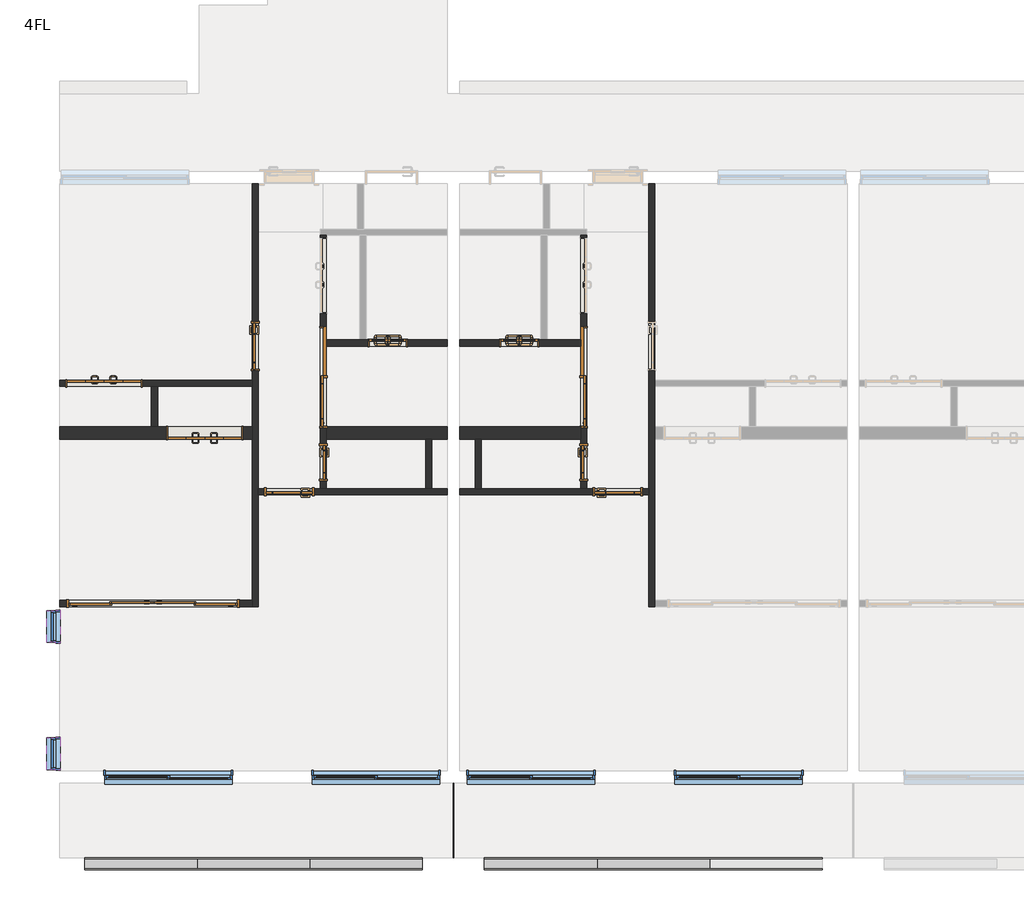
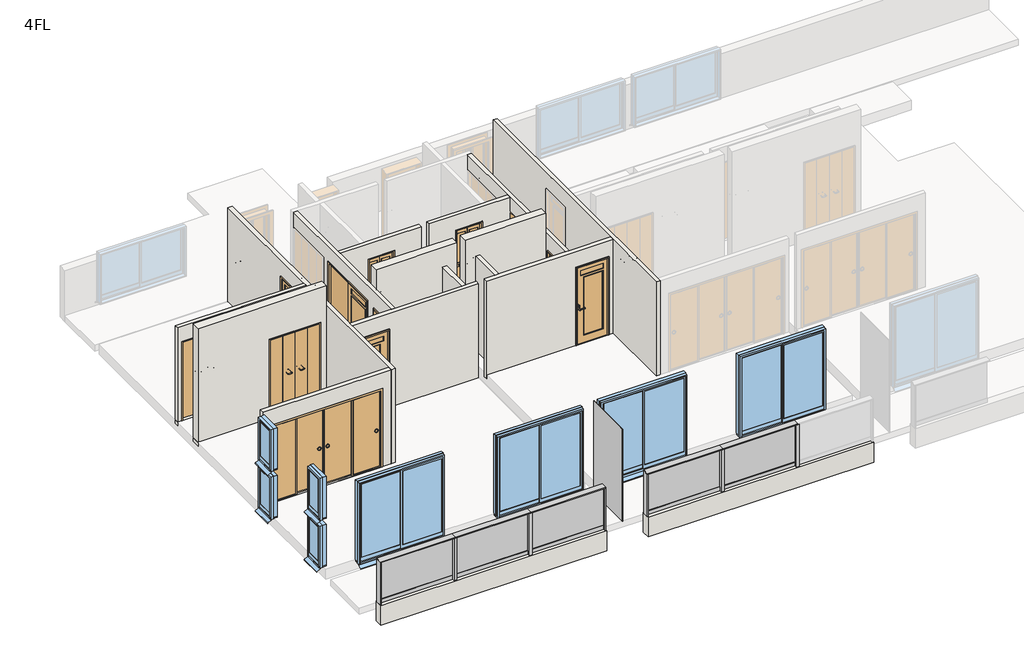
# One storey, part 1 of 3: 18 walls, 12 doors, 12 members, 8 windows, 6 plates.
"""IFC4 building model written with IfcOpenShell, lengths in millimetres."""

from ifc_helpers import new_model, si_unit, frame, origin, place, context, project, spatial, polyline, outline, extrude, faceted_brep, transform, mapped, element, save
from components import w1200h2000_6a144d60, w1200h2000_98cacc9b, w1600h2000_4c3c234a, w1600h2000_ca690e72, w2800h2000_670b855b, w600h2000_7f2747f4, w600h2000_6a266bef, w600h2000_94bb9c3c, w600h2000_8ea70a65, w800h2000_13e9f519, w800h2000_ccb03061, member_25x150_3f8205e2, member_25x150_f694351b, member_70x150_851c8a9b, plate_9f48129f, plate_365944b3, plate_cef4847d, window_2000x2000_f1ff98da, window_450x1000_e0a5e2da

model = new_model("IFC4")

# Units and contexts
model_context = context("Model", 3, world=origin())
ifc_project = project(units=[si_unit("LENGTHUNIT", "METRE", prefix="MILLI")], contexts=[model_context])

# Site, building, storey
site = spatial("IfcSite", under=ifc_project)
building = spatial("IfcBuilding", under=site)
storey = spatial("IfcBuildingStorey", under=building, Name="4FL", Elevation=10000.0)

# Doors
placement = place(None, origin())
w1200h2000_shape = w1200h2000_6a144d60(model_context)
element("IfcDoor", 1, ObjectType="木製折戸 : w1200h2000", at=placement, inside=storey, context=model_context, shape_type="MappedRepresentation", body=[
    mapped(w1200h2000_shape, transform((-10366.2187246, -9020.1171638, 10100.0), x_axis=(1.0, 0.0, 0.0), y_axis=(0.0, 1.0, 0.0), z_axis=(0.0, 0.0, 1.0))),
])
w1200h2000_2_shape = w1200h2000_98cacc9b(model_context)
element("IfcDoor", 2, ObjectType="木製折戸 : w1200h2000", at=placement, inside=storey, context=model_context, shape_type="MappedRepresentation", body=[
    mapped(w1200h2000_2_shape, transform((-8741.2187246, -9820.1171638, 10100.0), x_axis=(-1.0, 0.0, 0.0), y_axis=(0.0, -1.0, 0.0), z_axis=(0.0, 0.0, 1.0))),
])
w1600h2000_shape = w1600h2000_4c3c234a(model_context)
element("IfcDoor", 3, ObjectType="片引戸CL2017 : w1600h2000", at=placement, inside=storey, context=model_context, shape_type="MappedRepresentation", body=[
    mapped(w1600h2000_shape, transform((-6828.7187246, -8920.1171638, 10100.0), x_axis=(0.0, -1.0, 0.0), y_axis=(1.0, 0.0, 0.0), z_axis=(0.0, 0.0, 1.0))),
])
w1600h2000_2_shape = w1600h2000_ca690e72(model_context)
element("IfcDoor", 4, ObjectType="片引戸CL2017 : w1600h2000", at=placement, inside=storey, context=model_context, shape_type="MappedRepresentation", body=[
    mapped(w1600h2000_2_shape, transform((-2628.7187246, -8920.1171638, 10100.0), x_axis=(0.0, -1.0, 0.0), y_axis=(1.0, 0.0, 0.0), z_axis=(0.0, 0.0, 1.0))),
])
w2800h2000_shape = w2800h2000_670b855b(model_context)
element("IfcDoor", 5, ObjectType="引違い 4 枚 2 溝_襖 : w2800h2000", at=placement, inside=storey, context=model_context, shape_type="MappedRepresentation", body=[
    mapped(w2800h2000_shape, transform((-9584.2542286, -12570.1171638, 10100.0), x_axis=(-1.0, 0.0, 0.0), y_axis=(0.0, -1.0, 0.0), z_axis=(0.0, 0.0, 1.0))),
])
w600h2000_shape = w600h2000_7f2747f4(model_context)
element("IfcDoor", 6, ObjectType="片開戸CL2058 : w600h2000", at=placement, inside=storey, context=model_context, shape_type="MappedRepresentation", body=[
    mapped(w600h2000_shape, transform((-6828.7187246, -10295.1171638, 10100.0), x_axis=(0.0, -1.0, 0.0), y_axis=(1.0, 0.0, 0.0), z_axis=(0.0, 0.0, 1.0))),
])
w600h2000_2_shape = w600h2000_6a266bef(model_context)
element("IfcDoor", 7, ObjectType="浴室折戸 : w600h2000", at=placement, inside=storey, context=model_context, shape_type="MappedRepresentation", body=[
    mapped(w600h2000_2_shape, transform((-5788.7187246, -8370.1171638, 10100.0), x_axis=(1.0, 0.0, 0.0), y_axis=(0.0, 1.0, 0.0), z_axis=(0.0, 0.0, 1.0))),
])
w600h2000_3_shape = w600h2000_94bb9c3c(model_context)
element("IfcDoor", 8, ObjectType="浴室折戸 : w600h2000", at=placement, inside=storey, context=model_context, shape_type="MappedRepresentation", body=[
    mapped(w600h2000_3_shape, transform((-3668.7187246, -8370.1171638, 10100.0), x_axis=(-1.0, 0.0, 0.0), y_axis=(0.0, -1.0, 0.0), z_axis=(0.0, 0.0, 1.0))),
])
w600h2000_4_shape = w600h2000_8ea70a65(model_context)
element("IfcDoor", 9, ObjectType="片開戸CL2058 : w600h2000", at=placement, inside=storey, context=model_context, shape_type="MappedRepresentation", body=[
    mapped(w600h2000_4_shape, transform((-2628.7187246, -10295.1171638, 10100.0), x_axis=(0.0, -1.0, 0.0), y_axis=(1.0, 0.0, 0.0), z_axis=(0.0, 0.0, 1.0))),
])
w800h2000_shape = w800h2000_13e9f519(model_context)
element("IfcDoor", 10, ObjectType="片開戸CL2058 : w800h2000", at=placement, inside=storey, context=model_context, shape_type="MappedRepresentation", body=[
    mapped(w800h2000_shape, transform((-7928.7187246, -8420.1171638, 10100.0), x_axis=(0.0, -1.0, 0.0), y_axis=(1.0, 0.0, 0.0), z_axis=(0.0, 0.0, 1.0))),
])
element("IfcDoor", 11, ObjectType="片開戸CL2058 : w800h2000", at=placement, inside=storey, context=model_context, shape_type="MappedRepresentation", body=[
    mapped(w800h2000_shape, transform((-2078.7187246, -10770.1171638, 10100.0), x_axis=(1.0, 0.0, 0.0), y_axis=(0.0, 1.0, 0.0), z_axis=(0.0, 0.0, 1.0))),
])
w800h2000_2_shape = w800h2000_ccb03061(model_context)
element("IfcDoor", 12, ObjectType="片開戸CL2058 : w800h2000", at=placement, inside=storey, context=model_context, shape_type="MappedRepresentation", body=[
    mapped(w800h2000_2_shape, transform((-7378.7187246, -10770.1171638, 10100.0), x_axis=(-1.0, 0.0, 0.0), y_axis=(0.0, -1.0, 0.0), z_axis=(0.0, 0.0, 1.0))),
])

# Members
member_25x150_shape = member_25x150_3f8205e2(model_context)
element("IfcMember", 13, ObjectType="長方形のマリオン : 25x150", at=placement, inside=storey, context=model_context, shape_type="MappedRepresentation", body=[
    mapped(member_25x150_shape, transform((-5228.7187246, -16770.1171638, 10000.0), x_axis=(1.0, 0.0, 0.0), y_axis=(0.0, -1.0, 0.0), z_axis=(0.0, 0.0, -1.0))),
])
element("IfcMember", 14, ObjectType="長方形のマリオン : 25x150", at=placement, inside=storey, context=model_context, shape_type="MappedRepresentation", body=[
    mapped(member_25x150_shape, transform((-10678.7187246, -16770.1171638, 11075.0), x_axis=(-1.0, 0.0, 0.0), y_axis=(0.0, -1.0, 0.0), z_axis=(0.0, 0.0, 1.0))),
])
element("IfcMember", 15, ObjectType="長方形のマリオン : 25x150", at=placement, inside=storey, context=model_context, shape_type="MappedRepresentation", body=[
    mapped(member_25x150_shape, transform((-4228.7187246, -16770.1171638, 11075.0), x_axis=(-1.0, 0.0, 0.0), y_axis=(0.0, -1.0, 0.0), z_axis=(0.0, 0.0, 1.0))),
])
member_25x150_2_shape = member_25x150_f694351b(model_context)
element("IfcMember", 16, ObjectType="長方形のマリオン : 25x150", at=placement, inside=storey, context=model_context, shape_type="MappedRepresentation", body=[
    mapped(member_25x150_2_shape, transform((-5228.7187246, -16770.1171638, 11100.0), x_axis=(0.0, 0.0, 1.0), y_axis=(0.0, -1.0, 0.0), z_axis=(1.0, 0.0, 0.0))),
])
element("IfcMember", 17, ObjectType="長方形のマリオン : 25x150", at=placement, inside=storey, context=model_context, shape_type="MappedRepresentation", body=[
    mapped(member_25x150_2_shape, transform((-8862.052058, -16770.1171638, 11100.0), x_axis=(0.0, 0.0, 1.0), y_axis=(0.0, -1.0, 0.0), z_axis=(1.0, 0.0, 0.0))),
])
element("IfcMember", 18, ObjectType="長方形のマリオン : 25x150", at=placement, inside=storey, context=model_context, shape_type="MappedRepresentation", body=[
    mapped(member_25x150_2_shape, transform((-2412.052058, -16770.1171638, 11100.0), x_axis=(0.0, 0.0, 1.0), y_axis=(0.0, -1.0, 0.0), z_axis=(1.0, 0.0, 0.0))),
])
element("IfcMember", 19, ObjectType="長方形のマリオン : 25x150", at=placement, inside=storey, context=model_context, shape_type="MappedRepresentation", body=[
    mapped(member_25x150_2_shape, transform((-7045.3853913, -16770.1171638, 11100.0), x_axis=(0.0, 0.0, 1.0), y_axis=(0.0, -1.0, 0.0), z_axis=(1.0, 0.0, 0.0))),
])
element("IfcMember", 20, ObjectType="長方形のマリオン : 25x150", at=placement, inside=storey, context=model_context, shape_type="MappedRepresentation", body=[
    mapped(member_25x150_2_shape, transform((-595.3853913, -16770.1171638, 11100.0), x_axis=(0.0, 0.0, 1.0), y_axis=(0.0, -1.0, 0.0), z_axis=(1.0, 0.0, 0.0))),
])
member_70x150_shape = member_70x150_851c8a9b(model_context)
element("IfcMember", 21, ObjectType="長方形のマリオン : 70x150", at=placement, inside=storey, context=model_context, shape_type="MappedRepresentation", body=[
    mapped(member_70x150_shape, transform((-8862.052058, -16770.1171638, 10000.0), x_axis=(1.0, 0.0, 0.0), y_axis=(0.0, -1.0, 0.0), z_axis=(0.0, 0.0, -1.0))),
])
element("IfcMember", 22, ObjectType="長方形のマリオン : 70x150", at=placement, inside=storey, context=model_context, shape_type="MappedRepresentation", body=[
    mapped(member_70x150_shape, transform((-7045.3853913, -16770.1171638, 10000.0), x_axis=(1.0, 0.0, 0.0), y_axis=(0.0, -1.0, 0.0), z_axis=(0.0, 0.0, -1.0))),
])
element("IfcMember", 23, ObjectType="長方形のマリオン : 70x150", at=placement, inside=storey, context=model_context, shape_type="MappedRepresentation", body=[
    mapped(member_70x150_shape, transform((-2412.052058, -16770.1171638, 10000.0), x_axis=(1.0, 0.0, 0.0), y_axis=(0.0, -1.0, 0.0), z_axis=(0.0, 0.0, -1.0))),
])
element("IfcMember", 24, ObjectType="長方形のマリオン : 70x150", at=placement, inside=storey, context=model_context, shape_type="MappedRepresentation", body=[
    mapped(member_70x150_shape, transform((-595.3853913, -16770.1171638, 10000.0), x_axis=(1.0, 0.0, 0.0), y_axis=(0.0, -1.0, 0.0), z_axis=(0.0, 0.0, -1.0))),
])

# Plates
plate_shape = plate_9f48129f(model_context)
element("IfcPlate", 25, ObjectType="r パネル FIX 下框付 : 框 H100", at=placement, inside=storey, context=model_context, shape_type="MappedRepresentation", body=[
    mapped(plate_shape, transform((-9775.3853913, -16770.1171638, 10000.0), x_axis=(1.0, 0.0, 0.0), y_axis=(0.0, 1.0, 0.0), z_axis=(0.0, 0.0, 1.0))),
])
element("IfcPlate", 26, ObjectType="r パネル FIX 下框付 : 框 H100", at=placement, inside=storey, context=model_context, shape_type="MappedRepresentation", body=[
    mapped(plate_shape, transform((-6132.052058, -16770.1171638, 10000.0), x_axis=(1.0, 0.0, 0.0), y_axis=(0.0, 1.0, 0.0), z_axis=(0.0, 0.0, 1.0))),
])
element("IfcPlate", 27, ObjectType="r パネル FIX 下框付 : 框 H100", at=placement, inside=storey, context=model_context, shape_type="MappedRepresentation", body=[
    mapped(plate_shape, transform((-3325.3853913, -16770.1171638, 10000.0), x_axis=(1.0, 0.0, 0.0), y_axis=(0.0, 1.0, 0.0), z_axis=(0.0, 0.0, 1.0))),
])
plate_2_shape = plate_365944b3(model_context)
element("IfcPlate", 28, ObjectType="r パネル FIX 下框付 : 框 H100", at=placement, inside=storey, context=model_context, shape_type="MappedRepresentation", body=[
    mapped(plate_2_shape, transform((-7953.7187246, -16770.1171638, 10000.0), x_axis=(1.0, 0.0, 0.0), y_axis=(0.0, 1.0, 0.0), z_axis=(0.0, 0.0, 1.0))),
])
element("IfcPlate", 29, ObjectType="r パネル FIX 下框付 : 框 H100", at=placement, inside=storey, context=model_context, shape_type="MappedRepresentation", body=[
    mapped(plate_2_shape, transform((-1503.7187246, -16770.1171638, 10000.0), x_axis=(1.0, 0.0, 0.0), y_axis=(0.0, 1.0, 0.0), z_axis=(0.0, 0.0, 1.0))),
])
plate_3_shape = plate_cef4847d(model_context)
element("IfcPlate", 30, ObjectType="システム パネル : 標準", at=placement, inside=storey, context=model_context, shape_type="MappedRepresentation", body=[
    mapped(plate_3_shape, transform((-4728.7187246, -16070.1171638, 9950.0), x_axis=(0.0, -1.0, 0.0), y_axis=(1.0, 0.0, 0.0), z_axis=(0.0, 0.0, 1.0))),
])

# Walls
element("IfcWall", 31, ObjectType="(R)RC200", at=placement, inside=storey, context=model_context, shape_type="Brep", body=[
    faceted_brep([(-11078.7187246, -9920.1171638, 10000.0), (-7978.7187246, -9920.1171638, 10000.0), (-7978.7187246, -9920.1171638, 13000.0), (-11078.7187246, -9920.1171638, 13000.0), (-9361.2187246, -9920.1171638, 12120.0), (-8121.2187246, -9920.1171638, 12120.0), (-8121.2187246, -9920.1171638, 10100.0), (-9361.2187246, -9920.1171638, 10100.0), (-11078.7187246, -9720.1171638, 10000.0), (-11078.7187246, -9720.1171638, 13000.0), (-7978.7187246, -9720.1171638, 13000.0), (-7978.7187246, -9720.1171638, 10000.0), (-9503.7187246, -9720.1171638, 10000.0), (-9603.7187246, -9720.1171638, 10000.0), (-9361.2187246, -9720.1171638, 12120.0), (-9361.2187246, -9720.1171638, 10100.0), (-8121.2187246, -9720.1171638, 10100.0), (-8121.2187246, -9720.1171638, 12120.0)], [[[0, 1, 2, 3], [4, 5, 6, 7]], [[8, 9, 10, 11, 12, 13], [14, 15, 16, 17]], [[1, 0, 8, 13, 12, 11]], [[3, 2, 10, 9]], [[2, 1, 11, 10]], [[15, 14, 4, 7]], [[16, 15, 7, 6]], [[17, 16, 6, 5]], [[14, 17, 5, 4]], [[0, 3, 9, 8]]]),
])
element("IfcWall", 32, ObjectType="(R)RC200", at=placement, inside=storey, context=model_context, shape_type="Brep", body=[
    faceted_brep([(-6778.7187246, -9920.1171638, 10000.0), (-5178.7187246, -9920.1171638, 10000.0), (-5078.7187246, -9920.1171638, 10000.0), (-4828.7187246, -9920.1171638, 10000.0), (-4828.7187246, -9920.1171638, 13000.0), (-6778.7187246, -9920.1171638, 13000.0), (-6778.7187246, -9720.1171638, 10000.0), (-6778.7187246, -9720.1171638, 13000.0), (-4828.7187246, -9720.1171638, 13000.0), (-4828.7187246, -9720.1171638, 10000.0)], [[[0, 1, 2, 3, 4, 5]], [[6, 7, 8, 9]], [[3, 2, 1, 0, 6, 9]], [[5, 4, 8, 7]], [[0, 5, 7, 6]], [[4, 3, 9, 8]]]),
])
element("IfcWall", 33, ObjectType="(R)RC200", at=placement, inside=storey, context=model_context, shape_type="Brep", body=[
    faceted_brep([(-2678.7187246, -9720.1171638, 10000.0), (-4628.7187246, -9720.1171638, 10000.0), (-4628.7187246, -9720.1171638, 13000.0), (-2678.7187246, -9720.1171638, 13000.0), (-2678.7187246, -9920.1171638, 10000.0), (-2678.7187246, -9920.1171638, 13000.0), (-4628.7187246, -9920.1171638, 13000.0), (-4628.7187246, -9920.1171638, 10000.0), (-4378.7187246, -9920.1171638, 10000.0), (-4278.7187246, -9920.1171638, 10000.0)], [[[0, 1, 2, 3]], [[4, 5, 6, 7, 8, 9]], [[1, 0, 4, 9, 8, 7]], [[3, 2, 6, 5]], [[0, 3, 5, 4]], [[2, 1, 7, 6]]]),
])
element("IfcWall", 34, ObjectType="(R)RC200", at=placement, inside=storey, context=model_context, shape_type="SweptSolid", body=[
    extrude(outline(polyline([(-5228.7187246, -16870.1171638), (-10678.7187246, -16870.1171638), (-10678.7187246, -16670.1171638), (-5228.7187246, -16670.1171638), (-5228.7187246, -16870.1171638)])), frame((0.0, 0.0, 9500.0), z_axis=(0.0, 0.0, 1.0), x_axis=(1.0, 0.0, 0.0)), (0.0, 0.0, 1.0), 500.0),
])
element("IfcWall", 35, ObjectType="(R)RC200", at=placement, inside=storey, context=model_context, shape_type="SweptSolid", body=[
    extrude(outline(polyline([(1221.2812754, -16870.1171638), (-4228.7187246, -16870.1171638), (-4228.7187246, -16670.1171638), (1221.2812754, -16670.1171638), (1221.2812754, -16870.1171638)])), frame((0.0, 0.0, 9500.0), z_axis=(0.0, 0.0, 1.0), x_axis=(1.0, 0.0, 0.0)), (0.0, 0.0, 1.0), 500.0),
])
element("IfcWall", 36, ObjectType="(L1)LGS100", at=placement, inside=storey, context=model_context, shape_type="Brep", body=[
    faceted_brep([(-11078.7187246, -9070.1171638, 10000.0), (-9603.7187246, -9070.1171638, 10000.0), (-9503.7187246, -9070.1171638, 10000.0), (-7978.7187246, -9070.1171638, 10000.0), (-7978.7187246, -9070.1171638, 12500.0), (-9503.7187246, -9070.1171638, 12500.0), (-9603.7187246, -9070.1171638, 12500.0), (-11078.7187246, -9070.1171638, 12500.0), (-9746.2187246, -9070.1171638, 12120.0), (-9746.2187246, -9070.1171638, 10100.0), (-10986.2187246, -9070.1171638, 10100.0), (-10986.2187246, -9070.1171638, 12120.0), (-7978.7187246, -8970.1171638, 10000.0), (-11078.7187246, -8970.1171638, 10000.0), (-11078.7187246, -8970.1171638, 12500.0), (-7978.7187246, -8970.1171638, 12500.0), (-9746.2187246, -8970.1171638, 10100.0), (-9746.2187246, -8970.1171638, 12120.0), (-10986.2187246, -8970.1171638, 12120.0), (-10986.2187246, -8970.1171638, 10100.0)], [[[0, 1, 2, 3, 4, 5, 6, 7], [8, 9, 10, 11]], [[12, 13, 14, 15], [16, 17, 18, 19]], [[3, 2, 1, 0, 13, 12]], [[7, 6, 5, 4, 15, 14]], [[4, 3, 12, 15]], [[8, 17, 16, 9]], [[9, 16, 19, 10]], [[17, 8, 11, 18]], [[18, 11, 10, 19]], [[0, 7, 14, 13]]]),
])
element("IfcWall", 37, ObjectType="(L1)LGS100", at=placement, inside=storey, context=model_context, shape_type="SweptSolid", body=[
    extrude(outline(polyline([(-9503.7187246, -9070.1171638), (-9503.7187246, -9720.1171638), (-9603.7187246, -9720.1171638), (-9603.7187246, -9070.1171638), (-9503.7187246, -9070.1171638)])), frame((0.0, 0.0, 10000.0), z_axis=(0.0, 0.0, 1.0), x_axis=(1.0, 0.0, 0.0)), (0.0, 0.0, 1.0), 2500.0),
])
element("IfcWall", 38, ObjectType="(L1)LGS100", at=placement, inside=storey, context=model_context, shape_type="Brep", body=[
    faceted_brep([(-7878.7187246, -12620.1171638, 10000.0), (-7878.7187246, -10820.1171638, 10000.0), (-7878.7187246, -10720.1171638, 10000.0), (-7878.7187246, -5800.1171638, 10000.0), (-7878.7187246, -5800.1171638, 12500.0), (-7878.7187246, -10720.1171638, 12500.0), (-7878.7187246, -10820.1171638, 12500.0), (-7878.7187246, -12620.1171638, 12500.0), (-7878.7187246, -8820.1171638, 10100.0), (-7878.7187246, -8820.1171638, 12100.0), (-7878.7187246, -8020.1171638, 12100.0), (-7878.7187246, -8020.1171638, 10100.0), (-7978.7187246, -12620.1171638, 10000.0), (-7978.7187246, -12620.1171638, 12500.0), (-7978.7187246, -12520.1171638, 12500.0), (-7978.7187246, -9070.1171638, 12500.0), (-7978.7187246, -8970.1171638, 12500.0), (-7978.7187246, -5800.1171638, 12500.0), (-7978.7187246, -5800.1171638, 10000.0), (-7978.7187246, -8970.1171638, 10000.0), (-7978.7187246, -9070.1171638, 10000.0), (-7978.7187246, -9720.1171638, 10000.0), (-7978.7187246, -9920.1171638, 10000.0), (-7978.7187246, -12520.1171638, 10000.0), (-7978.7187246, -8820.1171638, 10100.0), (-7978.7187246, -8020.1171638, 10100.0), (-7978.7187246, -8020.1171638, 12100.0), (-7978.7187246, -8820.1171638, 12100.0)], [[[0, 1, 2, 3, 4, 5, 6, 7], [8, 9, 10, 11]], [[12, 13, 14, 15, 16, 17, 18, 19, 20, 21, 22, 23], [24, 25, 26, 27]], [[3, 2, 1, 0, 12, 23, 22, 21, 20, 19, 18]], [[7, 6, 5, 4, 17, 16, 15, 14, 13]], [[0, 7, 13, 12]], [[9, 8, 24, 27]], [[10, 9, 27, 26]], [[11, 10, 26, 25]], [[8, 11, 25, 24]], [[4, 3, 18, 17]]]),
])
element("IfcWall", 39, ObjectType="(L1)LGS100", at=placement, inside=storey, context=model_context, shape_type="Brep", body=[
    faceted_brep([(-6778.7187246, -8420.1171638, 10000.0), (-4828.7187246, -8420.1171638, 10000.0), (-4828.7187246, -8420.1171638, 12500.0), (-6778.7187246, -8420.1171638, 12500.0), (-5468.7187246, -8420.1171638, 12120.0), (-5468.7187246, -8420.1171638, 10100.0), (-6108.7187246, -8420.1171638, 10100.0), (-6108.7187246, -8420.1171638, 12120.0), (-6778.7187246, -8320.1171638, 10000.0), (-6778.7187246, -8320.1171638, 12500.0), (-6238.7187246, -8320.1171638, 12500.0), (-6138.7187246, -8320.1171638, 12500.0), (-4828.7187246, -8320.1171638, 12500.0), (-4828.7187246, -8320.1171638, 10000.0), (-6138.7187246, -8320.1171638, 10000.0), (-6238.7187246, -8320.1171638, 10000.0), (-5468.7187246, -8320.1171638, 12120.0), (-6108.7187246, -8320.1171638, 12120.0), (-6108.7187246, -8320.1171638, 10100.0), (-5468.7187246, -8320.1171638, 10100.0)], [[[0, 1, 2, 3], [4, 5, 6, 7]], [[8, 9, 10, 11, 12, 13, 14, 15], [16, 17, 18, 19]], [[1, 0, 8, 15, 14, 13]], [[3, 2, 12, 11, 10, 9]], [[0, 3, 9, 8]], [[5, 4, 16, 19]], [[6, 5, 19, 18]], [[7, 6, 18, 17]], [[4, 7, 17, 16]], [[2, 1, 13, 12]]]),
])
element("IfcWall", 40, ObjectType="(L1)LGS100", at=placement, inside=storey, context=model_context, shape_type="Brep", body=[
    faceted_brep([(-6778.7187246, -10720.1171638, 10000.0), (-6778.7187246, -9920.1171638, 10000.0), (-6778.7187246, -9720.1171638, 10000.0), (-6778.7187246, -8420.1171638, 10000.0), (-6778.7187246, -8320.1171638, 10000.0), (-6778.7187246, -6630.1171638, 10000.0), (-6778.7187246, -6630.1171638, 12500.0), (-6778.7187246, -8320.1171638, 12500.0), (-6778.7187246, -8420.1171638, 12500.0), (-6778.7187246, -10720.1171638, 12500.0), (-6778.7187246, -10595.1171638, 10100.0), (-6778.7187246, -10595.1171638, 12100.0), (-6778.7187246, -9995.1171638, 12100.0), (-6778.7187246, -9995.1171638, 10100.0), (-6778.7187246, -6660.1171638, 10100.0), (-6778.7187246, -7900.1171638, 10100.0), (-6778.7187246, -7900.1171638, 12120.0), (-6778.7187246, -6660.1171638, 12120.0), (-6778.7187246, -9745.1171638, 10100.0), (-6778.7187246, -9745.1171638, 12140.0), (-6778.7187246, -8095.1171638, 12140.0), (-6778.7187246, -8095.1171638, 10100.0), (-6878.7187246, -6630.1171638, 10000.0), (-6878.7187246, -10720.1171638, 10000.0), (-6878.7187246, -10720.1171638, 12500.0), (-6878.7187246, -6630.1171638, 12500.0), (-6878.7187246, -10595.1171638, 10100.0), (-6878.7187246, -9995.1171638, 10100.0), (-6878.7187246, -9995.1171638, 12100.0), (-6878.7187246, -10595.1171638, 12100.0), (-6878.7187246, -7900.1171638, 10100.0), (-6878.7187246, -6660.1171638, 10100.0), (-6878.7187246, -6660.1171638, 12120.0), (-6878.7187246, -7900.1171638, 12120.0), (-6878.7187246, -9745.1171638, 10100.0), (-6878.7187246, -8095.1171638, 10100.0), (-6878.7187246, -8095.1171638, 12140.0), (-6878.7187246, -9745.1171638, 12140.0)], [[[0, 1, 2, 3, 4, 5, 6, 7, 8, 9], [10, 11, 12, 13], [14, 15, 16, 17], [18, 19, 20, 21]], [[22, 23, 24, 25], [26, 27, 28, 29], [30, 31, 32, 33], [34, 35, 36, 37]], [[5, 4, 3, 2, 1, 0, 23, 22]], [[9, 8, 7, 6, 25, 24]], [[0, 9, 24, 23]], [[11, 10, 26, 29]], [[12, 11, 29, 28]], [[13, 12, 28, 27]], [[10, 13, 27, 26]], [[14, 31, 30, 15]], [[15, 30, 33, 16]], [[16, 33, 32, 17]], [[19, 18, 34, 37]], [[20, 19, 37, 36]], [[21, 20, 36, 35]], [[18, 21, 35, 34]], [[31, 14, 17, 32]], [[6, 5, 22, 25]]]),
])
element("IfcWall", 41, ObjectType="(L1)LGS100", at=placement, inside=storey, context=model_context, shape_type="SweptSolid", body=[
    extrude(outline(polyline([(-5078.7187246, -9920.1171638), (-5078.7187246, -10720.1171638), (-5178.7187246, -10720.1171638), (-5178.7187246, -9920.1171638), (-5078.7187246, -9920.1171638)])), frame((0.0, 0.0, 10000.0), z_axis=(0.0, 0.0, 1.0), x_axis=(1.0, 0.0, 0.0)), (0.0, 0.0, 1.0), 2500.0),
])
element("IfcWall", 42, ObjectType="(L1)LGS100", at=placement, inside=storey, context=model_context, shape_type="Brep", body=[
    faceted_brep([(-7878.7187246, -10820.1171638, 10000.0), (-4828.7187246, -10820.1171638, 10000.0), (-4828.7187246, -10820.1171638, 12500.0), (-7878.7187246, -10820.1171638, 12500.0), (-7778.7187246, -10820.1171638, 10100.0), (-7778.7187246, -10820.1171638, 12100.0), (-6978.7187246, -10820.1171638, 12100.0), (-6978.7187246, -10820.1171638, 10100.0), (-4828.7187246, -10720.1171638, 10000.0), (-5078.7187246, -10720.1171638, 10000.0), (-5178.7187246, -10720.1171638, 10000.0), (-6778.7187246, -10720.1171638, 10000.0), (-6878.7187246, -10720.1171638, 10000.0), (-7878.7187246, -10720.1171638, 10000.0), (-7878.7187246, -10720.1171638, 12500.0), (-6878.7187246, -10720.1171638, 12500.0), (-6778.7187246, -10720.1171638, 12500.0), (-5178.7187246, -10720.1171638, 12500.0), (-5078.7187246, -10720.1171638, 12500.0), (-4828.7187246, -10720.1171638, 12500.0), (-7778.7187246, -10720.1171638, 12100.0), (-7778.7187246, -10720.1171638, 10100.0), (-6978.7187246, -10720.1171638, 10100.0), (-6978.7187246, -10720.1171638, 12100.0)], [[[0, 1, 2, 3], [4, 5, 6, 7]], [[8, 9, 10, 11, 12, 13, 14, 15, 16, 17, 18, 19], [20, 21, 22, 23]], [[1, 0, 13, 12, 11, 10, 9, 8]], [[3, 2, 19, 18, 17, 16, 15, 14]], [[0, 3, 14, 13]], [[4, 21, 20, 5]], [[5, 20, 23, 6]], [[6, 23, 22, 7]], [[21, 4, 7, 22]], [[2, 1, 8, 19]]]),
])
element("IfcWall", 43, ObjectType="(L1)LGS100", at=placement, inside=storey, context=model_context, shape_type="SweptSolid", body=[
    extrude(outline(polyline([(10000.0, -11078.7187246), (10000.0, -7978.7187246), (12500.0, -7978.7187246), (12500.0, -11078.7187246), (10000.0, -11078.7187246)]), holes=[polyline([(12100.0, -10978.7187246), (12100.0, -8178.7187246), (10100.0, -8178.7187246), (10100.0, -10978.7187246), (12100.0, -10978.7187246)])]), frame((0.0, -12620.1171638, 0.0), z_axis=(0.0, 1.0, 0.0), x_axis=(0.0, 0.0, 1.0)), (0.0, 0.0, 1.0), 100.0),
])
element("IfcWall", 44, ObjectType="(L1)LGS100", at=placement, inside=storey, context=model_context, shape_type="Brep", body=[
    faceted_brep([(-1478.7187246, -12620.1171638, 10000.0), (-1478.7187246, -12520.1171638, 10000.0), (-1478.7187246, -9920.1171638, 10000.0), (-1478.7187246, -9720.1171638, 10000.0), (-1478.7187246, -9070.1171638, 10000.0), (-1478.7187246, -8970.1171638, 10000.0), (-1478.7187246, -5800.1171638, 10000.0), (-1478.7187246, -5800.1171638, 12500.0), (-1478.7187246, -8970.1171638, 12500.0), (-1478.7187246, -9070.1171638, 12500.0), (-1478.7187246, -12520.1171638, 12500.0), (-1478.7187246, -12620.1171638, 12500.0), (-1478.7187246, -8820.1171638, 10100.0), (-1478.7187246, -8820.1171638, 12100.0), (-1478.7187246, -8020.1171638, 12100.0), (-1478.7187246, -8020.1171638, 10100.0), (-1578.7187246, -12620.1171638, 10000.0), (-1578.7187246, -12620.1171638, 12500.0), (-1578.7187246, -10820.1171638, 12500.0), (-1578.7187246, -10720.1171638, 12500.0), (-1578.7187246, -5800.1171638, 12500.0), (-1578.7187246, -5800.1171638, 10000.0), (-1578.7187246, -10720.1171638, 10000.0), (-1578.7187246, -10820.1171638, 10000.0), (-1578.7187246, -8820.1171638, 10100.0), (-1578.7187246, -8020.1171638, 10100.0), (-1578.7187246, -8020.1171638, 12100.0), (-1578.7187246, -8820.1171638, 12100.0)], [[[0, 1, 2, 3, 4, 5, 6, 7, 8, 9, 10, 11], [12, 13, 14, 15]], [[16, 17, 18, 19, 20, 21, 22, 23], [24, 25, 26, 27]], [[6, 5, 4, 3, 2, 1, 0, 16, 23, 22, 21]], [[11, 10, 9, 8, 7, 20, 19, 18, 17]], [[0, 11, 17, 16]], [[13, 12, 24, 27]], [[14, 13, 27, 26]], [[15, 14, 26, 25]], [[12, 15, 25, 24]], [[7, 6, 21, 20]]]),
])
element("IfcWall", 45, ObjectType="(L1)LGS100", at=placement, inside=storey, context=model_context, shape_type="Brep", body=[
    faceted_brep([(-2678.7187246, -8320.1171638, 10000.0), (-3218.7187246, -8320.1171638, 10000.0), (-3318.7187246, -8320.1171638, 10000.0), (-4628.7187246, -8320.1171638, 10000.0), (-4628.7187246, -8320.1171638, 12500.0), (-3318.7187246, -8320.1171638, 12500.0), (-3218.7187246, -8320.1171638, 12500.0), (-2678.7187246, -8320.1171638, 12500.0), (-3988.7187246, -8320.1171638, 12120.0), (-3988.7187246, -8320.1171638, 10100.0), (-3348.7187246, -8320.1171638, 10100.0), (-3348.7187246, -8320.1171638, 12120.0), (-2678.7187246, -8420.1171638, 10000.0), (-2678.7187246, -8420.1171638, 12500.0), (-4628.7187246, -8420.1171638, 12500.0), (-4628.7187246, -8420.1171638, 10000.0), (-3988.7187246, -8420.1171638, 12120.0), (-3348.7187246, -8420.1171638, 12120.0), (-3348.7187246, -8420.1171638, 10100.0), (-3988.7187246, -8420.1171638, 10100.0)], [[[0, 1, 2, 3, 4, 5, 6, 7], [8, 9, 10, 11]], [[12, 13, 14, 15], [16, 17, 18, 19]], [[3, 2, 1, 0, 12, 15]], [[7, 6, 5, 4, 14, 13]], [[0, 7, 13, 12]], [[9, 8, 16, 19]], [[10, 9, 19, 18]], [[11, 10, 18, 17]], [[8, 11, 17, 16]], [[4, 3, 15, 14]]]),
])
element("IfcWall", 46, ObjectType="(L1)LGS100", at=placement, inside=storey, context=model_context, shape_type="Brep", body=[
    faceted_brep([(-2578.7187246, -10720.1171638, 10000.0), (-2578.7187246, -6630.1171638, 10000.0), (-2578.7187246, -6630.1171638, 12500.0), (-2578.7187246, -10720.1171638, 12500.0), (-2578.7187246, -10595.1171638, 10100.0), (-2578.7187246, -10595.1171638, 12100.0), (-2578.7187246, -9995.1171638, 12100.0), (-2578.7187246, -9995.1171638, 10100.0), (-2578.7187246, -6660.1171638, 10100.0), (-2578.7187246, -7900.1171638, 10100.0), (-2578.7187246, -7900.1171638, 12120.0), (-2578.7187246, -6660.1171638, 12120.0), (-2578.7187246, -9745.1171638, 10100.0), (-2578.7187246, -9745.1171638, 12140.0), (-2578.7187246, -8095.1171638, 12140.0), (-2578.7187246, -8095.1171638, 10100.0), (-2678.7187246, -6630.1171638, 10000.0), (-2678.7187246, -8320.1171638, 10000.0), (-2678.7187246, -8420.1171638, 10000.0), (-2678.7187246, -9720.1171638, 10000.0), (-2678.7187246, -9920.1171638, 10000.0), (-2678.7187246, -10720.1171638, 10000.0), (-2678.7187246, -10720.1171638, 12500.0), (-2678.7187246, -8420.1171638, 12500.0), (-2678.7187246, -8320.1171638, 12500.0), (-2678.7187246, -6630.1171638, 12500.0), (-2678.7187246, -10595.1171638, 10100.0), (-2678.7187246, -9995.1171638, 10100.0), (-2678.7187246, -9995.1171638, 12100.0), (-2678.7187246, -10595.1171638, 12100.0), (-2678.7187246, -7900.1171638, 10100.0), (-2678.7187246, -6660.1171638, 10100.0), (-2678.7187246, -6660.1171638, 12120.0), (-2678.7187246, -7900.1171638, 12120.0), (-2678.7187246, -9745.1171638, 10100.0), (-2678.7187246, -8095.1171638, 10100.0), (-2678.7187246, -8095.1171638, 12140.0), (-2678.7187246, -9745.1171638, 12140.0)], [[[0, 1, 2, 3], [4, 5, 6, 7], [8, 9, 10, 11], [12, 13, 14, 15]], [[16, 17, 18, 19, 20, 21, 22, 23, 24, 25], [26, 27, 28, 29], [30, 31, 32, 33], [34, 35, 36, 37]], [[1, 0, 21, 20, 19, 18, 17, 16]], [[3, 2, 25, 24, 23, 22]], [[0, 3, 22, 21]], [[5, 4, 26, 29]], [[6, 5, 29, 28]], [[7, 6, 28, 27]], [[4, 7, 27, 26]], [[8, 31, 30, 9]], [[9, 30, 33, 10]], [[10, 33, 32, 11]], [[13, 12, 34, 37]], [[14, 13, 37, 36]], [[15, 14, 36, 35]], [[12, 15, 35, 34]], [[31, 8, 11, 32]], [[2, 1, 16, 25]]]),
])
element("IfcWall", 47, ObjectType="(L1)LGS100", at=placement, inside=storey, context=model_context, shape_type="SweptSolid", body=[
    extrude(outline(polyline([(-4278.7187246, -9920.1171638), (-4278.7187246, -10720.1171638), (-4378.7187246, -10720.1171638), (-4378.7187246, -9920.1171638), (-4278.7187246, -9920.1171638)])), frame((0.0, 0.0, 10000.0), z_axis=(0.0, 0.0, 1.0), x_axis=(1.0, 0.0, 0.0)), (0.0, 0.0, 1.0), 2500.0),
])
element("IfcWall", 48, ObjectType="(L1)LGS100", at=placement, inside=storey, context=model_context, shape_type="Brep", body=[
    faceted_brep([(-1578.7187246, -10720.1171638, 10000.0), (-2578.7187246, -10720.1171638, 10000.0), (-2678.7187246, -10720.1171638, 10000.0), (-4278.7187246, -10720.1171638, 10000.0), (-4378.7187246, -10720.1171638, 10000.0), (-4628.7187246, -10720.1171638, 10000.0), (-4628.7187246, -10720.1171638, 12500.0), (-4378.7187246, -10720.1171638, 12500.0), (-4278.7187246, -10720.1171638, 12500.0), (-2678.7187246, -10720.1171638, 12500.0), (-2578.7187246, -10720.1171638, 12500.0), (-1578.7187246, -10720.1171638, 12500.0), (-1678.7187246, -10720.1171638, 10100.0), (-1678.7187246, -10720.1171638, 12100.0), (-2478.7187246, -10720.1171638, 12100.0), (-2478.7187246, -10720.1171638, 10100.0), (-4628.7187246, -10820.1171638, 10000.0), (-1578.7187246, -10820.1171638, 10000.0), (-1578.7187246, -10820.1171638, 12500.0), (-4628.7187246, -10820.1171638, 12500.0), (-1678.7187246, -10820.1171638, 12100.0), (-1678.7187246, -10820.1171638, 10100.0), (-2478.7187246, -10820.1171638, 10100.0), (-2478.7187246, -10820.1171638, 12100.0)], [[[0, 1, 2, 3, 4, 5, 6, 7, 8, 9, 10, 11], [12, 13, 14, 15]], [[16, 17, 18, 19], [20, 21, 22, 23]], [[5, 4, 3, 2, 1, 0, 17, 16]], [[11, 10, 9, 8, 7, 6, 19, 18]], [[0, 11, 18, 17]], [[12, 21, 20, 13]], [[13, 20, 23, 14]], [[14, 23, 22, 15]], [[21, 12, 15, 22]], [[6, 5, 16, 19]]]),
])

# Windows
window_2000x2000_shape = window_2000x2000_f1ff98da(model_context)
element("IfcWindow", 49, ObjectType="鋼製_一般枠_引違い-二枚 : 2000x2000", at=placement, inside=storey, context=model_context, shape_type="MappedRepresentation", body=[
    mapped(window_2000x2000_shape, transform((-9328.7187246, -15370.1171638, 9200.0), x_axis=(-1.0, 0.0, 0.0), y_axis=(0.0, -1.0, 0.0), z_axis=(0.0, 0.0, 1.0))),
])
element("IfcWindow", 50, ObjectType="鋼製_一般枠_引違い-二枚 : 2000x2000", at=placement, inside=storey, context=model_context, shape_type="MappedRepresentation", body=[
    mapped(window_2000x2000_shape, transform((-5978.7187246, -15370.1171638, 9200.0), x_axis=(-1.0, 0.0, 0.0), y_axis=(0.0, -1.0, 0.0), z_axis=(0.0, 0.0, 1.0))),
])
element("IfcWindow", 51, ObjectType="鋼製_一般枠_引違い-二枚 : 2000x2000", at=placement, inside=storey, context=model_context, shape_type="MappedRepresentation", body=[
    mapped(window_2000x2000_shape, transform((-128.7187246, -15370.1171638, 9200.0), x_axis=(-1.0, 0.0, 0.0), y_axis=(0.0, -1.0, 0.0), z_axis=(0.0, 0.0, 1.0))),
])
element("IfcWindow", 52, ObjectType="鋼製_一般枠_引違い-二枚 : 2000x2000", at=placement, inside=storey, context=model_context, shape_type="MappedRepresentation", body=[
    mapped(window_2000x2000_shape, transform((-3478.7187246, -15370.1171638, 9200.0), x_axis=(-1.0, 0.0, 0.0), y_axis=(0.0, -1.0, 0.0), z_axis=(0.0, 0.0, 1.0))),
])
window_450x1000_shape = window_450x1000_e0a5e2da(model_context)
element("IfcWindow", 53, ObjectType="鋼製_一般枠_嵌殺し : 450x1000", at=placement, inside=storey, context=model_context, shape_type="MappedRepresentation", body=[
    mapped(window_450x1000_shape, transform((-11178.7187246, -14995.1171638, 9010.0), x_axis=(0.0, 1.0, 0.0), y_axis=(-1.0, 0.0, 0.0), z_axis=(0.0, 0.0, 1.0))),
])
element("IfcWindow", 54, ObjectType="鋼製_一般枠_嵌殺し : 450x1000", at=placement, inside=storey, context=model_context, shape_type="MappedRepresentation", body=[
    mapped(window_450x1000_shape, transform((-11178.7187246, -12945.1171638, 9010.0), x_axis=(0.0, 1.0, 0.0), y_axis=(-1.0, 0.0, 0.0), z_axis=(0.0, 0.0, 1.0))),
])
element("IfcWindow", 55, ObjectType="鋼製_一般枠_嵌殺し : 450x1000", at=placement, inside=storey, context=model_context, shape_type="MappedRepresentation", body=[
    mapped(window_450x1000_shape, transform((-11178.7187246, -14995.1171638, 10230.0), x_axis=(0.0, 1.0, 0.0), y_axis=(-1.0, 0.0, 0.0), z_axis=(0.0, 0.0, 1.0))),
])
element("IfcWindow", 56, ObjectType="鋼製_一般枠_嵌殺し : 450x1000", at=placement, inside=storey, context=model_context, shape_type="MappedRepresentation", body=[
    mapped(window_450x1000_shape, transform((-11178.7187246, -12945.1171638, 10230.0), x_axis=(0.0, 1.0, 0.0), y_axis=(-1.0, 0.0, 0.0), z_axis=(0.0, 0.0, 1.0))),
])

save(model, "model.ifc")
